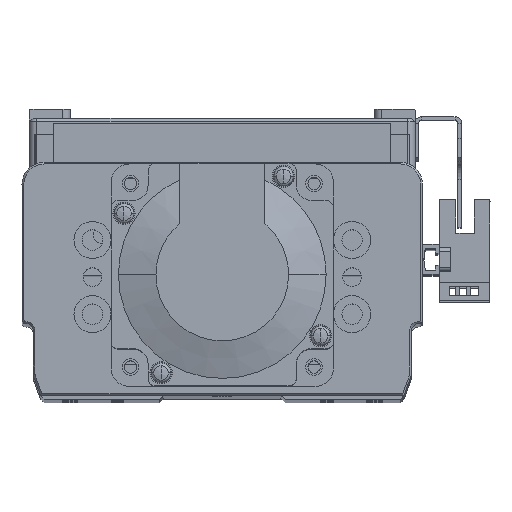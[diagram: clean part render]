
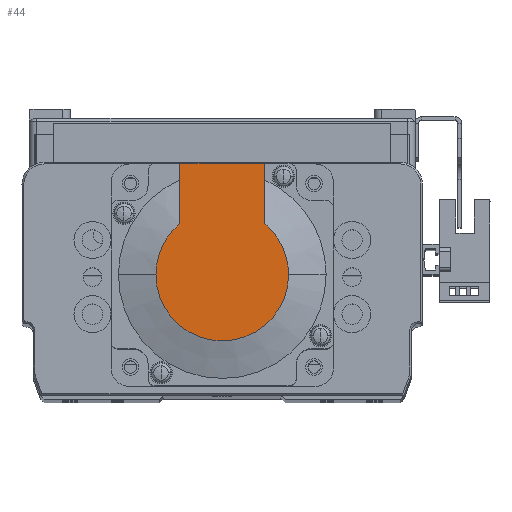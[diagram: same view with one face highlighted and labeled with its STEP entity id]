
A CAD part, top view. The second image highlights one B-rep face of the part: STEP entity #44.
In plain terms, the highlighted planar face has unit normal (0, 0, 1) as drawn and (-1, 0, 0) by its records, which use the part's own axes.
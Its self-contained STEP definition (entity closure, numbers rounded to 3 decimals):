
#44 = ADVANCED_FACE ( 'NONE', ( #53541 ), #958, .T. ) ;
#958 = PLANE ( 'NONE',  #45453 ) ;
#1028 = DIRECTION ( 'NONE',  ( -1., 0., 0. ) ) ;
#1030 = CARTESIAN_POINT ( 'NONE',  ( -99., -8.941, 0. ) ) ;
#1049 = DIRECTION ( 'NONE',  ( 0., 0., 1. ) ) ;
#6382 = EDGE_CURVE ( 'NONE', #51783, #51649, #39747, .T. ) ;
#6476 = EDGE_CURVE ( 'NONE', #51853, #51783, #39972, .T. ) ;
#6534 = EDGE_CURVE ( 'NONE', #51858, #51613, #40111, .T. ) ;
#6590 = EDGE_CURVE ( 'NONE', #51853, #51858, #39603, .T. ) ;
#7171 = EDGE_CURVE ( 'NONE', #51649, #51574, #29516, .T. ) ;
#7197 = EDGE_CURVE ( 'NONE', #51574, #51613, #29656, .T. ) ;
#23429 = AXIS2_PLACEMENT_3D ( 'NONE', #26138, #26053, #26116 ) ;
#23644 = AXIS2_PLACEMENT_3D ( 'NONE', #30935, #30941, #30945 ) ;
#23692 = AXIS2_PLACEMENT_3D ( 'NONE', #31024, #31044, #31031 ) ;
#26053 = DIRECTION ( 'NONE',  ( -1., 0., 0. ) ) ;
#26116 = DIRECTION ( 'NONE',  ( 0., 0., -1. ) ) ;
#26138 = CARTESIAN_POINT ( 'NONE',  ( -99., 0., 0. ) ) ;
#26269 = CARTESIAN_POINT ( 'NONE',  ( -99., -8.941, -11.45 ) ) ;
#26287 = DIRECTION ( 'NONE',  ( 0., -1., 0. ) ) ;
#26378 = DIRECTION ( 'NONE',  ( 0., -1., 0. ) ) ;
#26383 = CARTESIAN_POINT ( 'NONE',  ( -99., 0., 11.45 ) ) ;
#26419 = DIRECTION ( 'NONE',  ( 0., 0., 1. ) ) ;
#26421 = CARTESIAN_POINT ( 'NONE',  ( -99., 30., 25. ) ) ;
#29516 = CIRCLE ( 'NONE', #23644, 17.881 ) ;
#29656 = CIRCLE ( 'NONE', #23692, 17.881 ) ;
#30935 = CARTESIAN_POINT ( 'NONE',  ( -99., 0., 0. ) ) ;
#30941 = DIRECTION ( 'NONE',  ( -1., 0., 0. ) ) ;
#30945 = DIRECTION ( 'NONE',  ( 0., 0., -1. ) ) ;
#31024 = CARTESIAN_POINT ( 'NONE',  ( -99., 0., 0. ) ) ;
#31031 = DIRECTION ( 'NONE',  ( 0., 0., -1. ) ) ;
#31044 = DIRECTION ( 'NONE',  ( -1., 0., 0. ) ) ;
#39603 = LINE ( 'NONE', #26421, #39676 ) ;
#39676 = VECTOR ( 'NONE', #26419, 1000. ) ;
#39747 = CIRCLE ( 'NONE', #23429, 17.881 ) ;
#39972 = LINE ( 'NONE', #26269, #40047 ) ;
#40047 = VECTOR ( 'NONE', #26287, 1000. ) ;
#40111 = LINE ( 'NONE', #26383, #40142 ) ;
#40142 = VECTOR ( 'NONE', #26378, 1000. ) ;
#40473 = CARTESIAN_POINT ( 'NONE',  ( -99., 0., 17.881 ) ) ;
#40516 = CARTESIAN_POINT ( 'NONE',  ( -99., 13.735, 11.45 ) ) ;
#40553 = CARTESIAN_POINT ( 'NONE',  ( -99., 0., -17.881 ) ) ;
#40691 = CARTESIAN_POINT ( 'NONE',  ( -99., 13.735, -11.45 ) ) ;
#40768 = CARTESIAN_POINT ( 'NONE',  ( -99., 30., 11.45 ) ) ;
#40785 = CARTESIAN_POINT ( 'NONE',  ( -99., 30., -11.45 ) ) ;
#45453 = AXIS2_PLACEMENT_3D ( 'NONE', #1030, #1028, #1049 ) ;
#47269 = ORIENTED_EDGE ( 'NONE', *, *, #7171, .T. ) ;
#47272 = ORIENTED_EDGE ( 'NONE', *, *, #6590, .F. ) ;
#47285 = ORIENTED_EDGE ( 'NONE', *, *, #7197, .T. ) ;
#47329 = ORIENTED_EDGE ( 'NONE', *, *, #6382, .T. ) ;
#47335 = ORIENTED_EDGE ( 'NONE', *, *, #6534, .F. ) ;
#47339 = ORIENTED_EDGE ( 'NONE', *, *, #6476, .T. ) ;
#51574 = VERTEX_POINT ( 'NONE', #40473 ) ;
#51613 = VERTEX_POINT ( 'NONE', #40516 ) ;
#51649 = VERTEX_POINT ( 'NONE', #40553 ) ;
#51783 = VERTEX_POINT ( 'NONE', #40691 ) ;
#51853 = VERTEX_POINT ( 'NONE', #40785 ) ;
#51858 = VERTEX_POINT ( 'NONE', #40768 ) ;
#52129 = EDGE_LOOP ( 'NONE', ( #47339, #47329, #47269, #47285, #47335, #47272 ) ) ;
#53541 = FACE_OUTER_BOUND ( 'NONE', #52129, .T. ) ;
